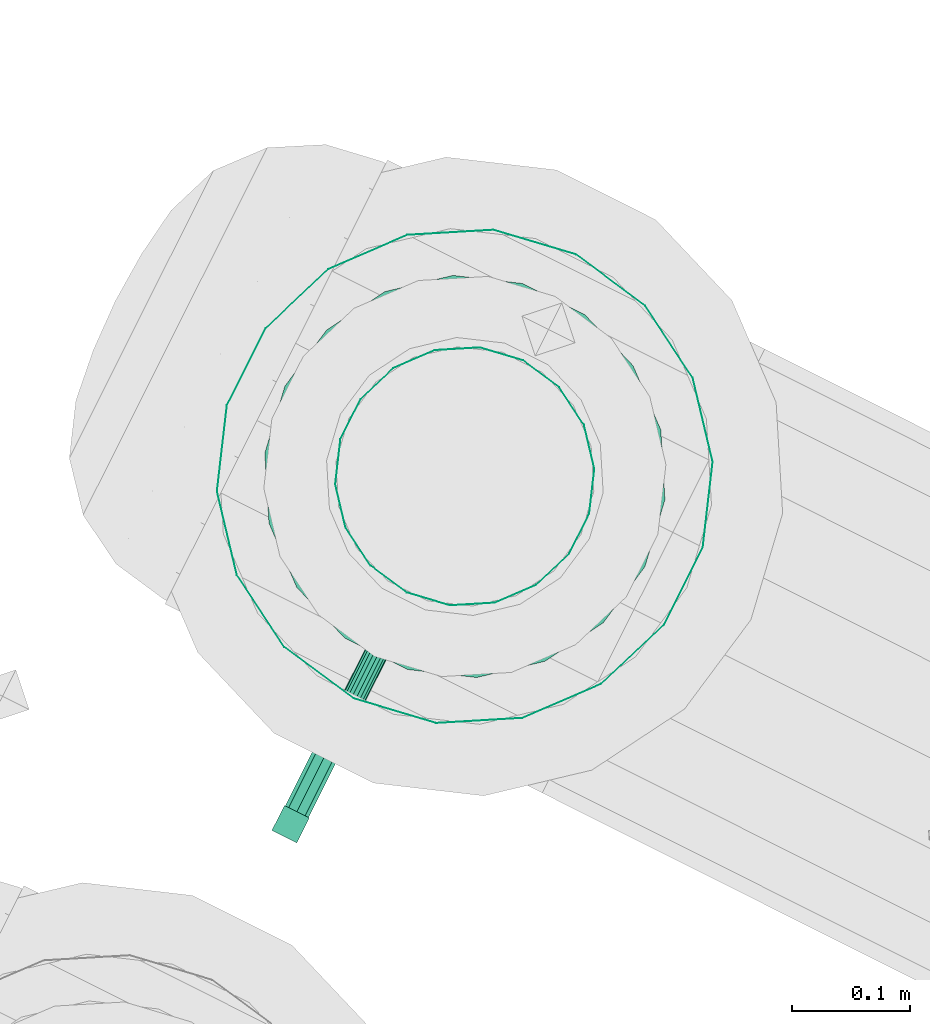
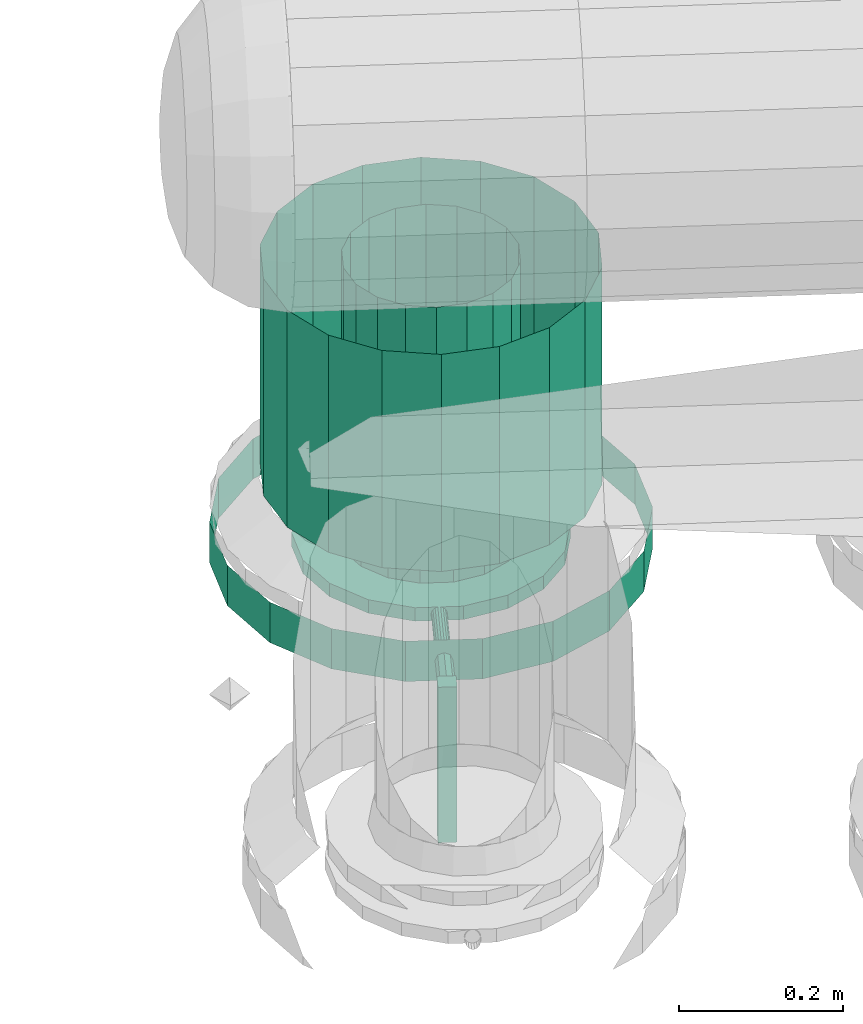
# One storey, part 131 of 152: 1 flow controller, 1 flow segment.
"""IFC2X3 building model written with IfcOpenShell, lengths in metres."""

from ifc_helpers import new_model, si_unit, derived_unit, direction, frame, origin, place, context, subcontext, project, spatial, face_set, surface_model, source, transform, mapped, material, type_object, type_shapes, element, save


model = new_model("IFC2X3")

# Units and contexts
model_context = context("Model", 3, precision=5.2338327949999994e-05, world=origin(), true_north=direction((0.0, 1.0)))
body_context = subcontext(model_context, "Body", "Model", "MODEL_VIEW")
ifc_project = project(units=[si_unit("LENGTHUNIT", "METRE"), si_unit("AREAUNIT", "SQUARE_METRE"), si_unit("VOLUMEUNIT", "CUBIC_METRE"), si_unit("MASSUNIT", "GRAM", prefix="KILO"), si_unit("PLANEANGLEUNIT", "RADIAN"), derived_unit("THERMALTRANSMITTANCEUNIT", [(si_unit("MASSUNIT", "GRAM", prefix="KILO"), 1), (si_unit("THERMODYNAMICTEMPERATUREUNIT", "KELVIN"), -1), (si_unit("TIMEUNIT", "SECOND"), -3)])], contexts=[model_context])

# Site, building, storey
site_placement = place(None, frame((0.0, 0.0, 0.0), z_axis=(0.0, 0.0, 1.0), x_axis=(0.8939966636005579, -0.4480736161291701, 0.0)))
site = spatial("IfcSite", under=ifc_project, at=site_placement, Name="Default", CompositionType="ELEMENT")
building_placement = place(site_placement, origin())
building = spatial("IfcBuilding", under=site, at=building_placement, CompositionType="ELEMENT")
storey_placement = place(building_placement, frame((0.0, 0.0, 2.7499999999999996)))
storey = spatial("IfcBuildingStorey", under=building, at=storey_placement, Name="1. Obergeschoss", CompositionType="ELEMENT", Elevation=2.7499999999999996)

# Flow controller
ifc_material = material(Name="IfcSurfaceStyle #1741")
distribution_element_type_1 = type_object("IfcDistributionElementType", Name="Zwischenflanschklappe 247409:Zwischenflanschklappe 247409", material=ifc_material)
shared_shape_1 = source(origin(), body_context, "Body", "SurfaceModel", [
    surface_model("IfcFaceBasedSurfaceModel", [(5.111016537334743, 7.6957083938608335, 4.741522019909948), (5.111016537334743, 7.6957083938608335, 4.9723720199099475), (5.1345165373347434, 7.6957083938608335, 4.9723720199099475), (5.1345165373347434, 7.6957083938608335, 4.741522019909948), (5.1345165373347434, 7.672208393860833, 4.9723720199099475), (5.1345165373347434, 7.672208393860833, 4.741522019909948), (5.111016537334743, 7.672208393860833, 4.9723720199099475), (5.111016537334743, 7.672208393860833, 4.741522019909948), (5.240266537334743, 8.012208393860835, 4.930622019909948), (5.233180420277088, 8.0523957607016, 4.930622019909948), (5.233180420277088, 8.0523957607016, 4.9506220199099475), (5.240266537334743, 8.012208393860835, 4.9506220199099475), (5.212776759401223, 8.087735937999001, 4.930622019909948), (5.212776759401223, 8.087735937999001, 4.9506220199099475), (5.181516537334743, 8.113966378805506, 4.930622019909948), (5.181516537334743, 8.113966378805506, 4.9506220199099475), (5.1431701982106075, 8.127923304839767, 4.930622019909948), (5.1431701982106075, 8.127923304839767, 4.9506220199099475), (5.102362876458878, 8.127923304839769, 4.930622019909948), (5.102362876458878, 8.127923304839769, 4.9506220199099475), (5.0640165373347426, 8.113966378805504, 4.930622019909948), (5.0640165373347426, 8.113966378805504, 4.9506220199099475), (5.032756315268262, 8.087735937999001, 4.930622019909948), (5.032756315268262, 8.087735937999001, 4.9506220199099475), (5.012352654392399, 8.0523957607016, 4.930622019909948), (5.012352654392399, 8.0523957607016, 4.9506220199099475), (5.005266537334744, 8.012208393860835, 4.930622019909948), (5.005266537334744, 8.012208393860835, 4.9506220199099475), (5.012352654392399, 7.972021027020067, 4.930622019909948), (5.012352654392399, 7.972021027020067, 4.9506220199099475), (5.032756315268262, 7.9366808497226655, 4.930622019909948), (5.032756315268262, 7.9366808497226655, 4.9506220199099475), (5.0640165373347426, 7.910450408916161, 4.930622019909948), (5.0640165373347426, 7.910450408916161, 4.9506220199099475), (5.102362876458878, 7.896493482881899, 4.930622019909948), (5.102362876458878, 7.896493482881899, 4.9506220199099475), (5.1431701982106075, 7.896493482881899, 4.930622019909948), (5.1431701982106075, 7.896493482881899, 4.9506220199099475), (5.181516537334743, 7.910450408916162, 4.930622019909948), (5.181516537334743, 7.910450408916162, 4.9506220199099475), (5.212776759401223, 7.936680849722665, 4.930622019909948), (5.212776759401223, 7.936680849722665, 4.9506220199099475), (5.233180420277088, 7.972021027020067, 4.930622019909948), (5.233180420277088, 7.972021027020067, 4.9506220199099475), (5.122766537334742, 8.012208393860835, 4.930622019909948), (5.122766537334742, 8.012208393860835, 4.9506220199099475), (5.292766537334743, 8.012208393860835, 4.9506220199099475), (5.282514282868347, 8.070351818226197, 4.9506220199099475), (5.282514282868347, 8.070351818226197, 4.970622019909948), (5.292766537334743, 8.012208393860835, 4.970622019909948), (5.252994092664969, 8.121482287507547, 4.9506220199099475), (5.252994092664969, 8.121482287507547, 4.970622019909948), (5.207766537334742, 8.159432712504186, 4.9506220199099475), (5.207766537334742, 8.159432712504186, 4.970622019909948), (5.152286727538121, 8.179625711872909, 4.9506220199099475), (5.152286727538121, 8.179625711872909, 4.970622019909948), (5.093246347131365, 8.179625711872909, 4.9506220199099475), (5.093246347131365, 8.179625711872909, 4.970622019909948), (5.037766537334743, 8.159432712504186, 4.9506220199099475), (5.037766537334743, 8.159432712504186, 4.970622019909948), (4.992538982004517, 8.121482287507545, 4.9506220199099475), (4.992538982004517, 8.121482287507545, 4.970622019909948), (4.9630187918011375, 8.070351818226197, 4.9506220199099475), (4.9630187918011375, 8.070351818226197, 4.970622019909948), (4.952766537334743, 8.012208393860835, 4.9506220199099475), (4.952766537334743, 8.012208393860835, 4.970622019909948), (4.9630187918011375, 7.9540649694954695, 4.9506220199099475), (4.9630187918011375, 7.9540649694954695, 4.970622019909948), (4.992538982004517, 7.902934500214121, 4.9506220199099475), (4.992538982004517, 7.902934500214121, 4.970622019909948), (5.037766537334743, 7.864984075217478, 4.9506220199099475), (5.037766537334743, 7.864984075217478, 4.970622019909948), (5.093246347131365, 7.8447910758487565, 4.9506220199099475), (5.093246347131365, 7.8447910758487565, 4.970622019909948), (5.152286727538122, 7.844791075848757, 4.9506220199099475), (5.152286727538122, 7.844791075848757, 4.970622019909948), (5.207766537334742, 7.864984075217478, 4.9506220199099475), (5.207766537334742, 7.864984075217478, 4.970622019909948), (5.252994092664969, 7.902934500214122, 4.9506220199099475), (5.252994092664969, 7.902934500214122, 4.970622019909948), (5.282514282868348, 7.9540649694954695, 4.9506220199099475), (5.282514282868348, 7.9540649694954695, 4.970622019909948), (5.122766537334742, 8.012208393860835, 4.970622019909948), (5.240266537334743, 8.012208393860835, 4.970622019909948), (5.233180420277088, 8.0523957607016, 4.970622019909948), (5.233180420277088, 8.0523957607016, 4.990622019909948), (5.240266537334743, 8.012208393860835, 4.990622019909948), (5.212776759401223, 8.087735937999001, 4.970622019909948), (5.212776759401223, 8.087735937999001, 4.990622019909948), (5.181516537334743, 8.113966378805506, 4.970622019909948), (5.181516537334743, 8.113966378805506, 4.990622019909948), (5.1431701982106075, 8.127923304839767, 4.970622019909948), (5.1431701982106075, 8.127923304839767, 4.990622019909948), (5.102362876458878, 8.127923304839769, 4.970622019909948), (5.102362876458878, 8.127923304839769, 4.990622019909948), (5.0640165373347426, 8.113966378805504, 4.970622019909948), (5.0640165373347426, 8.113966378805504, 4.990622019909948), (5.032756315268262, 8.087735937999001, 4.970622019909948), (5.032756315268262, 8.087735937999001, 4.990622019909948), (5.012352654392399, 8.0523957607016, 4.970622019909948), (5.012352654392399, 8.0523957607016, 4.990622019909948), (5.005266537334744, 8.012208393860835, 4.970622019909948), (5.005266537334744, 8.012208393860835, 4.990622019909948), (5.012352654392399, 7.972021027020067, 4.970622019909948), (5.012352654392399, 7.972021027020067, 4.990622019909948), (5.032756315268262, 7.9366808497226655, 4.970622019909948), (5.032756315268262, 7.9366808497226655, 4.990622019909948), (5.0640165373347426, 7.910450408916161, 4.970622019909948), (5.0640165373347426, 7.910450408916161, 4.990622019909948), (5.102362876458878, 7.896493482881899, 4.970622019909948), (5.102362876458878, 7.896493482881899, 4.990622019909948), (5.1431701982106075, 7.896493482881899, 4.970622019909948), (5.1431701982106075, 7.896493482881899, 4.990622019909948), (5.181516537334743, 7.910450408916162, 4.970622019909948), (5.181516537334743, 7.910450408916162, 4.990622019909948), (5.212776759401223, 7.936680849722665, 4.970622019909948), (5.212776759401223, 7.936680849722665, 4.990622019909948), (5.233180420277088, 7.972021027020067, 4.970622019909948), (5.233180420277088, 7.972021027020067, 4.990622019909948), (5.122766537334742, 8.012208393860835, 4.990622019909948), (5.132766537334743, 8.012208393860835, 4.960622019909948), (5.132163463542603, 8.012208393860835, 4.964042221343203), (5.132163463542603, 7.768958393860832, 4.964042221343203), (5.132766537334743, 7.768958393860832, 4.960622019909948), (5.1304269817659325, 8.012208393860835, 4.967049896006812), (5.1304269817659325, 7.768958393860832, 4.967049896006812), (5.127766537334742, 8.012208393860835, 4.969282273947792), (5.127766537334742, 7.768958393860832, 4.969282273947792), (5.124503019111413, 8.012208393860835, 4.97047009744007), (5.124503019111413, 7.768958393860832, 4.97047009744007), (5.121030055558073, 8.012208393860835, 4.97047009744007), (5.121030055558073, 7.768958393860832, 4.97047009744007), (5.117766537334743, 8.012208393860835, 4.969282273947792), (5.117766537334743, 7.768958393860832, 4.969282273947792), (5.115106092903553, 8.012208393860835, 4.967049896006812), (5.115106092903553, 7.768958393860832, 4.967049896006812), (5.113369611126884, 8.012208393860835, 4.964042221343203), (5.113369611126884, 7.768958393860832, 4.964042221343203), (5.1127665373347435, 8.012208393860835, 4.960622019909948), (5.1127665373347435, 7.768958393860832, 4.960622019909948), (5.113369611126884, 8.012208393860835, 4.957201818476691), (5.113369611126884, 7.768958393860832, 4.957201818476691), (5.115106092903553, 8.012208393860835, 4.9541941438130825), (5.115106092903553, 7.768958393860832, 4.9541941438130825), (5.117766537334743, 8.012208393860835, 4.951961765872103), (5.117766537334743, 7.768958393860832, 4.951961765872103), (5.121030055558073, 8.012208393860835, 4.950773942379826), (5.121030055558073, 7.768958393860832, 4.950773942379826), (5.124503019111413, 8.012208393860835, 4.950773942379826), (5.124503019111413, 7.768958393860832, 4.950773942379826), (5.127766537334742, 8.012208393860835, 4.951961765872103), (5.127766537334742, 7.768958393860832, 4.951961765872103), (5.1304269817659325, 8.012208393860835, 4.9541941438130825), (5.1304269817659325, 7.768958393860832, 4.9541941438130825), (5.132163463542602, 8.012208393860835, 4.957201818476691), (5.132163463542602, 7.768958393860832, 4.957201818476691), (5.122766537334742, 8.012208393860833, 4.960622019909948), (5.122766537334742, 7.768958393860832, 4.960622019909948), (5.133721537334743, 7.768958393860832, 4.960622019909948), (5.130512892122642, 7.768958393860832, 4.968368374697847), (5.130512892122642, 7.6957083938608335, 4.968368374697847), (5.133721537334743, 7.6957083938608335, 4.960622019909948), (5.122766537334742, 7.768958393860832, 4.971577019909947), (5.122766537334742, 7.6957083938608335, 4.971577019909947), (5.115020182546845, 7.768958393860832, 4.968368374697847), (5.115020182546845, 7.6957083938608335, 4.968368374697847), (5.111811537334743, 7.768958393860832, 4.960622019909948), (5.111811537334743, 7.6957083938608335, 4.960622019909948), (5.115020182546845, 7.768958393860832, 4.952875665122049), (5.115020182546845, 7.6957083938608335, 4.952875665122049), (5.122766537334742, 7.768958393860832, 4.949667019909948), (5.122766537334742, 7.6957083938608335, 4.949667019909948), (5.130512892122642, 7.768958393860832, 4.952875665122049), (5.130512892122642, 7.6957083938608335, 4.952875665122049), (5.122766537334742, 7.6957083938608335, 4.960622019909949), (5.392766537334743, 8.012208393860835, 4.930622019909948), (5.376483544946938, 8.104553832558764, 4.930622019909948), (5.376483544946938, 8.104553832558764, 4.990622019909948), (5.392766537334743, 8.012208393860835, 4.990622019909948), (5.329598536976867, 8.185761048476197, 4.930622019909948), (5.329598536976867, 8.185761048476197, 4.990622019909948), (5.257766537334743, 8.246035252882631, 4.930622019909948), (5.257766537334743, 8.246035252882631, 4.990622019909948), (5.169651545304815, 8.27810648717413, 4.930622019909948), (5.169651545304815, 8.27810648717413, 4.990622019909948), (5.075881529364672, 8.27810648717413, 4.930622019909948), (5.075881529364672, 8.27810648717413, 4.990622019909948), (4.987766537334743, 8.246035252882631, 4.930622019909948), (4.987766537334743, 8.246035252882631, 4.990622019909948), (4.915934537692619, 8.185761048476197, 4.930622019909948), (4.915934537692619, 8.185761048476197, 4.990622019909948), (4.869049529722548, 8.104553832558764, 4.930622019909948), (4.869049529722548, 8.104553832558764, 4.990622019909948), (4.852766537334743, 8.012208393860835, 4.930622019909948), (4.852766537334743, 8.012208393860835, 4.990622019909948), (4.869049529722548, 7.919862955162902, 4.930622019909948), (4.869049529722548, 7.919862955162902, 4.990622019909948), (4.915934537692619, 7.838655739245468, 4.930622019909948), (4.915934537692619, 7.838655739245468, 4.990622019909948), (4.987766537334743, 7.778381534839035, 4.930622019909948), (4.987766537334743, 7.778381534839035, 4.990622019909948), (5.075881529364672, 7.746310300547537, 4.930622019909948), (5.075881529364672, 7.746310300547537, 4.990622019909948), (5.169651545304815, 7.746310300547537, 4.930622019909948), (5.169651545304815, 7.746310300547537, 4.990622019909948), (5.257766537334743, 7.778381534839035, 4.930622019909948), (5.257766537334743, 7.778381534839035, 4.990622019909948), (5.329598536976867, 7.838655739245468, 4.930622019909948), (5.329598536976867, 7.838655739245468, 4.990622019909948), (5.376483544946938, 7.919862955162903, 4.930622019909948), (5.376483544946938, 7.919862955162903, 4.990622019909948)], [face_set([[[0, 1, 2, 3]], [[3, 2, 4, 5]], [[5, 4, 6, 7]], [[7, 6, 1, 0]], [[0, 3, 5, 7]], [[6, 4, 2, 1]], [[8, 9, 10, 11]], [[9, 12, 13, 10]], [[12, 14, 15, 13]], [[14, 16, 17, 15]], [[16, 18, 19, 17]], [[18, 20, 21, 19]], [[20, 22, 23, 21]], [[22, 24, 25, 23]], [[24, 26, 27, 25]], [[26, 28, 29, 27]], [[28, 30, 31, 29]], [[30, 32, 33, 31]], [[32, 34, 35, 33]], [[34, 36, 37, 35]], [[36, 38, 39, 37]], [[38, 40, 41, 39]], [[40, 42, 43, 41]], [[42, 8, 11, 43]], [[44, 9, 8]], [[44, 12, 9]], [[44, 14, 12]], [[44, 16, 14]], [[44, 18, 16]], [[44, 20, 18]], [[44, 22, 20]], [[44, 24, 22]], [[44, 26, 24]], [[44, 28, 26]], [[44, 30, 28]], [[44, 32, 30]], [[44, 34, 32]], [[44, 36, 34]], [[44, 38, 36]], [[44, 40, 38]], [[44, 42, 40]], [[44, 8, 42]], [[45, 43, 11]], [[45, 41, 43]], [[45, 39, 41]], [[45, 37, 39]], [[45, 35, 37]], [[45, 33, 35]], [[45, 31, 33]], [[45, 29, 31]], [[45, 27, 29]], [[45, 25, 27]], [[45, 23, 25]], [[45, 21, 23]], [[45, 19, 21]], [[45, 17, 19]], [[45, 15, 17]], [[45, 13, 15]], [[45, 10, 13]], [[45, 11, 10]], [[46, 47, 48, 49]], [[47, 50, 51, 48]], [[50, 52, 53, 51]], [[52, 54, 55, 53]], [[54, 56, 57, 55]], [[56, 58, 59, 57]], [[58, 60, 61, 59]], [[60, 62, 63, 61]], [[62, 64, 65, 63]], [[64, 66, 67, 65]], [[66, 68, 69, 67]], [[68, 70, 71, 69]], [[70, 72, 73, 71]], [[72, 74, 75, 73]], [[74, 76, 77, 75]], [[76, 78, 79, 77]], [[78, 80, 81, 79]], [[80, 46, 49, 81]], [[45, 47, 46]], [[45, 50, 47]], [[45, 52, 50]], [[45, 54, 52]], [[45, 56, 54]], [[45, 58, 56]], [[45, 60, 58]], [[45, 62, 60]], [[45, 64, 62]], [[45, 66, 64]], [[45, 68, 66]], [[45, 70, 68]], [[45, 72, 70]], [[45, 74, 72]], [[45, 76, 74]], [[45, 78, 76]], [[45, 80, 78]], [[45, 46, 80]], [[82, 81, 49]], [[82, 79, 81]], [[82, 77, 79]], [[82, 75, 77]], [[82, 73, 75]], [[82, 71, 73]], [[82, 69, 71]], [[82, 67, 69]], [[82, 65, 67]], [[82, 63, 65]], [[82, 61, 63]], [[82, 59, 61]], [[82, 57, 59]], [[82, 55, 57]], [[82, 53, 55]], [[82, 51, 53]], [[82, 48, 51]], [[82, 49, 48]], [[83, 84, 85, 86]], [[84, 87, 88, 85]], [[87, 89, 90, 88]], [[89, 91, 92, 90]], [[91, 93, 94, 92]], [[93, 95, 96, 94]], [[95, 97, 98, 96]], [[97, 99, 100, 98]], [[99, 101, 102, 100]], [[101, 103, 104, 102]], [[103, 105, 106, 104]], [[105, 107, 108, 106]], [[107, 109, 110, 108]], [[109, 111, 112, 110]], [[111, 113, 114, 112]], [[113, 115, 116, 114]], [[115, 117, 118, 116]], [[117, 83, 86, 118]], [[82, 84, 83]], [[82, 87, 84]], [[82, 89, 87]], [[82, 91, 89]], [[82, 93, 91]], [[82, 95, 93]], [[82, 97, 95]], [[82, 99, 97]], [[82, 101, 99]], [[82, 103, 101]], [[82, 105, 103]], [[82, 107, 105]], [[82, 109, 107]], [[82, 111, 109]], [[82, 113, 111]], [[82, 115, 113]], [[82, 117, 115]], [[82, 83, 117]], [[119, 118, 86]], [[119, 116, 118]], [[119, 114, 116]], [[119, 112, 114]], [[119, 110, 112]], [[119, 108, 110]], [[119, 106, 108]], [[119, 104, 106]], [[119, 102, 104]], [[119, 100, 102]], [[119, 98, 100]], [[119, 96, 98]], [[119, 94, 96]], [[119, 92, 94]], [[119, 90, 92]], [[119, 88, 90]], [[119, 85, 88]], [[119, 86, 85]], [[120, 121, 122, 123]], [[121, 124, 125, 122]], [[124, 126, 127, 125]], [[126, 128, 129, 127]], [[128, 130, 131, 129]], [[130, 132, 133, 131]], [[132, 134, 135, 133]], [[134, 136, 137, 135]], [[136, 138, 139, 137]], [[138, 140, 141, 139]], [[140, 142, 143, 141]], [[142, 144, 145, 143]], [[144, 146, 147, 145]], [[146, 148, 149, 147]], [[148, 150, 151, 149]], [[150, 152, 153, 151]], [[152, 154, 155, 153]], [[154, 120, 123, 155]], [[156, 121, 120]], [[156, 124, 121]], [[156, 126, 124]], [[156, 128, 126]], [[156, 130, 128]], [[156, 132, 130]], [[156, 134, 132]], [[156, 136, 134]], [[156, 138, 136]], [[156, 140, 138]], [[156, 142, 140]], [[156, 144, 142]], [[156, 146, 144]], [[156, 148, 146]], [[156, 150, 148]], [[156, 152, 150]], [[156, 154, 152]], [[156, 120, 154]], [[157, 155, 123]], [[157, 153, 155]], [[157, 151, 153]], [[157, 149, 151]], [[157, 147, 149]], [[157, 145, 147]], [[157, 143, 145]], [[157, 141, 143]], [[157, 139, 141]], [[157, 137, 139]], [[157, 135, 137]], [[157, 133, 135]], [[157, 131, 133]], [[157, 129, 131]], [[157, 127, 129]], [[157, 125, 127]], [[157, 122, 125]], [[157, 123, 122]], [[158, 159, 160, 161]], [[159, 162, 163, 160]], [[162, 164, 165, 163]], [[164, 166, 167, 165]], [[166, 168, 169, 167]], [[168, 170, 171, 169]], [[170, 172, 173, 171]], [[172, 158, 161, 173]], [[174, 173, 161]], [[174, 171, 173]], [[174, 169, 171]], [[174, 167, 169]], [[174, 165, 167]], [[174, 163, 165]], [[174, 160, 163]], [[174, 161, 160]], [[175, 176, 177, 178]], [[176, 179, 180, 177]], [[179, 181, 182, 180]], [[181, 183, 184, 182]], [[183, 185, 186, 184]], [[185, 187, 188, 186]], [[187, 189, 190, 188]], [[189, 191, 192, 190]], [[191, 193, 194, 192]], [[193, 195, 196, 194]], [[195, 197, 198, 196]], [[197, 199, 200, 198]], [[199, 201, 202, 200]], [[201, 203, 204, 202]], [[203, 205, 206, 204]], [[205, 207, 208, 206]], [[207, 209, 210, 208]], [[209, 175, 178, 210]]])]),
])
type_shapes(distribution_element_type_1, [shared_shape_1])
flow_controller_placement = place(storey_placement, frame((0.0, 0.0, -2.7499999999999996)))
element("IfcFlowController", 1, at=flow_controller_placement, inside=storey, type_object=distribution_element_type_1, material=ifc_material, Name="Zwischenflanschklappe", ObjectType="Zwischenflanschklappe", context=body_context, shape_type="MappedRepresentation", body=[
    mapped(shared_shape_1, transform((0.0, 0.0, 0.0), scale=1.0)),
])

# Flow segment
distribution_element_type_2 = type_object("IfcDistributionElementType", Name="Stahlrohr nach DIN 2448 247432:Stahlrohr nach DIN 2448 247432", material=ifc_material)
shared_shape_2 = source(origin(), body_context, "Body", "SurfaceModel", [
    surface_model("IfcFaceBasedSurfaceModel", [(5.122766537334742, 7.902658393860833, 5.375028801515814), (5.085298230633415, 7.909265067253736, 5.375028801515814), (5.085298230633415, 7.909265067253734, 5.052622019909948), (5.122766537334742, 7.902658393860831, 5.052622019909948), (5.052349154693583, 7.928288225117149, 5.375028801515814), (5.052349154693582, 7.928288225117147, 5.052622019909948), (5.027893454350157, 7.957433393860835, 5.375028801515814), (5.027893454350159, 7.957433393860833, 5.052622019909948), (5.014880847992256, 7.9931852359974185, 5.375028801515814), (5.014880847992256, 7.9931852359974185, 5.052622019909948), (5.0148808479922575, 8.031231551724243, 5.375028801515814), (5.014880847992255, 8.031231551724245, 5.052622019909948), (5.027893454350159, 8.066983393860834, 5.375028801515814), (5.027893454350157, 8.066983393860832, 5.052622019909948), (5.052349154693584, 8.096128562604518, 5.375028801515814), (5.052349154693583, 8.096128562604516, 5.052622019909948), (5.085298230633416, 8.115151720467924, 5.375028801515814), (5.085298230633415, 8.115151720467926, 5.052622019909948), (5.122766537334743, 8.121758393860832, 5.375028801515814), (5.122766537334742, 8.121758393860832, 5.052622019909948), (5.16023484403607, 8.115151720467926, 5.375028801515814), (5.160234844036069, 8.115151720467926, 5.052622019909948), (5.193183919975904, 8.096128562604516, 5.375028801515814), (5.193183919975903, 8.096128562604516, 5.052622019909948), (5.217639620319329, 8.06698339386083, 5.375028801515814), (5.217639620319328, 8.06698339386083, 5.052622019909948), (5.23065222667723, 8.031231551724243, 5.375028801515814), (5.230652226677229, 8.031231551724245, 5.052622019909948), (5.23065222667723, 7.9931852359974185, 5.375028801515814), (5.23065222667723, 7.9931852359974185, 5.052622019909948), (5.2176396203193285, 7.957433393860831, 5.375028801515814), (5.2176396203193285, 7.957433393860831, 5.052622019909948), (5.193183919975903, 7.928288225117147, 5.375028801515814), (5.193183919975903, 7.928288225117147, 5.052622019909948), (5.1602348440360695, 7.909265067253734, 5.375028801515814), (5.160234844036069, 7.909265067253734, 5.052622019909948), (5.122766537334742, 7.802658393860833, 5.375028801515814), (5.051096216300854, 7.815295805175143, 5.375028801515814), (5.051096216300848, 7.815295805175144, 5.052622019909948), (5.122766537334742, 7.802658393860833, 5.052622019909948), (4.988070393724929, 7.85168378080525, 5.375028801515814), (4.988070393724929, 7.85168378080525, 5.052622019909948), (4.941290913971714, 7.907433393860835, 5.375028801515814), (4.941290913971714, 7.90743339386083, 5.052622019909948), (4.916400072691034, 7.975820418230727, 5.375028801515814), (4.916400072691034, 7.975820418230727, 5.052622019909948), (4.916400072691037, 8.048596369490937, 5.375028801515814), (4.916400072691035, 8.048596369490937, 5.052622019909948), (4.941290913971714, 8.116983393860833, 5.375028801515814), (4.941290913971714, 8.11698339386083, 5.052622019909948), (4.9880703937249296, 8.172733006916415, 5.375028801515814), (4.988070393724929, 8.172733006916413, 5.052622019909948), (5.05109621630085, 8.20912098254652, 5.375028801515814), (5.051096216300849, 8.209120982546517, 5.052622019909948), (5.122766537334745, 8.221758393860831, 5.375028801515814), (5.122766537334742, 8.22175839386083, 5.052622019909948), (5.194436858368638, 8.209120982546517, 5.375028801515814), (5.194436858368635, 8.20912098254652, 5.052622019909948), (5.257462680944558, 8.172733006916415, 5.375028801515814), (5.257462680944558, 8.172733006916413, 5.052622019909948), (5.304242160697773, 8.11698339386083, 5.375028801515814), (5.30424216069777, 8.11698339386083, 5.052622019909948), (5.329133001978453, 8.048596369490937, 5.375028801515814), (5.32913300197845, 8.048596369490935, 5.052622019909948), (5.32913300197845, 7.975820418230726, 5.375028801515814), (5.329133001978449, 7.975820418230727, 5.052622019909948), (5.304242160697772, 7.907433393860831, 5.375028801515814), (5.304242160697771, 7.90743339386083, 5.052622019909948), (5.257462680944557, 7.851683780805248, 5.375028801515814), (5.257462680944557, 7.851683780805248, 5.052622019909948), (5.194436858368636, 7.815295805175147, 5.375028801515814), (5.1944368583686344, 7.815295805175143, 5.052622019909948)], [face_set([[[0, 1, 2, 3]], [[1, 4, 5, 2]], [[4, 6, 7, 5]], [[6, 8, 9, 7]], [[8, 10, 11, 9]], [[10, 12, 13, 11]], [[12, 14, 15, 13]], [[14, 16, 17, 15]], [[16, 18, 19, 17]], [[18, 20, 21, 19]], [[20, 22, 23, 21]], [[22, 24, 25, 23]], [[24, 26, 27, 25]], [[26, 28, 29, 27]], [[28, 30, 31, 29]], [[30, 32, 33, 31]], [[32, 34, 35, 33]], [[34, 0, 3, 35]], [[36, 37, 38, 39]], [[37, 40, 41, 38]], [[40, 42, 43, 41]], [[42, 44, 45, 43]], [[44, 46, 47, 45]], [[46, 48, 49, 47]], [[48, 50, 51, 49]], [[50, 52, 53, 51]], [[52, 54, 55, 53]], [[54, 56, 57, 55]], [[56, 58, 59, 57]], [[58, 60, 61, 59]], [[60, 62, 63, 61]], [[62, 64, 65, 63]], [[64, 66, 67, 65]], [[66, 68, 69, 67]], [[68, 70, 71, 69]], [[70, 36, 39, 71]]])]),
])
type_shapes(distribution_element_type_2, [shared_shape_2])
flow_segment_placement = place(storey_placement, frame((0.0, 0.0, -2.7499999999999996)))
element("IfcFlowSegment", 2, at=flow_segment_placement, inside=storey, type_object=distribution_element_type_2, material=ifc_material, Name="Stahlrohr nach DIN 2448", ObjectType="Stahlrohr nach DIN 2448", context=body_context, shape_type="MappedRepresentation", body=[
    mapped(shared_shape_2, transform((0.0, 0.0, 0.0), scale=1.0)),
])

save(model, "model.ifc")
